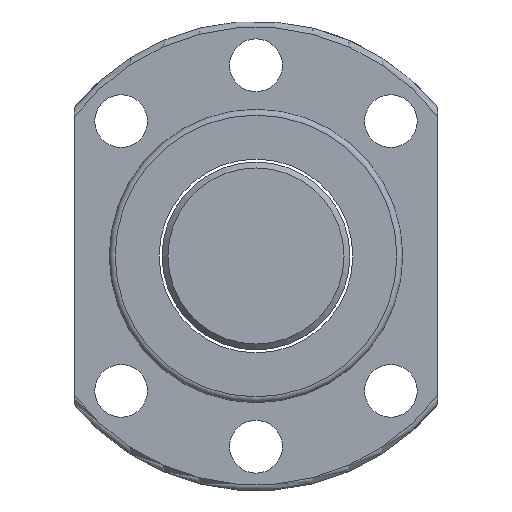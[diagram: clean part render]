
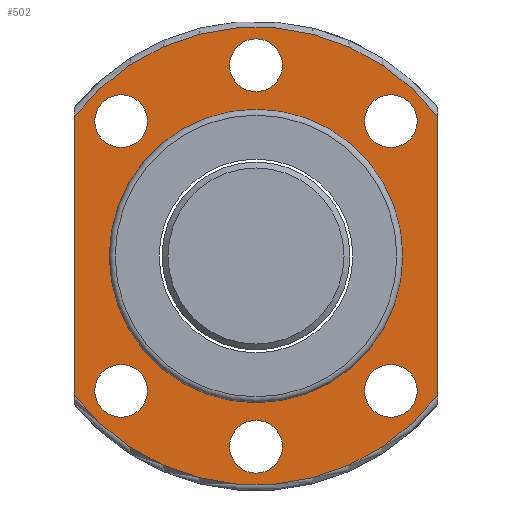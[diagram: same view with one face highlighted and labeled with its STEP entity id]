
A CAD part, left-side view. The second image highlights one B-rep face of the part: STEP entity #502.
In plain terms, the highlighted planar face has unit normal (-1, 0, 0).
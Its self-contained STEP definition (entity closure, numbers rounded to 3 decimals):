
#61=LINE('',#830,#69);
#62=LINE('',#835,#70);
#69=VECTOR('',#670,1000.);
#70=VECTOR('',#673,1000.);
#107=PLANE('',#575);
#140=ORIENTED_EDGE('',*,*,#254,.F.);
#141=ORIENTED_EDGE('',*,*,#255,.T.);
#142=ORIENTED_EDGE('',*,*,#256,.T.);
#143=ORIENTED_EDGE('',*,*,#257,.T.);
#144=ORIENTED_EDGE('',*,*,#258,.T.);
#145=ORIENTED_EDGE('',*,*,#259,.F.);
#146=ORIENTED_EDGE('',*,*,#260,.F.);
#147=ORIENTED_EDGE('',*,*,#261,.F.);
#148=ORIENTED_EDGE('',*,*,#262,.F.);
#149=ORIENTED_EDGE('',*,*,#263,.F.);
#150=ORIENTED_EDGE('',*,*,#264,.F.);
#254=EDGE_CURVE('',#313,#314,#61,.T.);
#255=EDGE_CURVE('',#313,#315,#352,.T.);
#256=EDGE_CURVE('',#315,#316,#62,.T.);
#257=EDGE_CURVE('',#316,#314,#353,.T.);
#258=EDGE_CURVE('',#317,#317,#354,.T.);
#259=EDGE_CURVE('',#318,#318,#355,.T.);
#260=EDGE_CURVE('',#319,#319,#356,.T.);
#261=EDGE_CURVE('',#320,#320,#357,.T.);
#262=EDGE_CURVE('',#321,#321,#358,.T.);
#263=EDGE_CURVE('',#322,#322,#359,.T.);
#264=EDGE_CURVE('',#323,#323,#360,.T.);
#313=VERTEX_POINT('',#831);
#314=VERTEX_POINT('',#832);
#315=VERTEX_POINT('',#834);
#316=VERTEX_POINT('',#836);
#317=VERTEX_POINT('',#839);
#318=VERTEX_POINT('',#841);
#319=VERTEX_POINT('',#843);
#320=VERTEX_POINT('',#845);
#321=VERTEX_POINT('',#847);
#322=VERTEX_POINT('',#849);
#323=VERTEX_POINT('',#851);
#352=CIRCLE('',#576,39.);
#353=CIRCLE('',#577,39.);
#354=CIRCLE('',#578,25.);
#355=CIRCLE('',#579,4.5);
#356=CIRCLE('',#580,4.5);
#357=CIRCLE('',#581,4.5);
#358=CIRCLE('',#582,4.5);
#359=CIRCLE('',#583,4.5);
#360=CIRCLE('',#584,4.5);
#387=EDGE_LOOP('',(#140,#141,#142,#143));
#388=EDGE_LOOP('',(#144));
#389=EDGE_LOOP('',(#145));
#390=EDGE_LOOP('',(#146));
#391=EDGE_LOOP('',(#147));
#392=EDGE_LOOP('',(#148));
#393=EDGE_LOOP('',(#149));
#394=EDGE_LOOP('',(#150));
#449=FACE_BOUND('',#387,.T.);
#450=FACE_BOUND('',#388,.T.);
#451=FACE_BOUND('',#389,.T.);
#452=FACE_BOUND('',#390,.T.);
#453=FACE_BOUND('',#391,.T.);
#454=FACE_BOUND('',#392,.T.);
#455=FACE_BOUND('',#393,.T.);
#456=FACE_BOUND('',#394,.T.);
#502=ADVANCED_FACE('',(#449,#450,#451,#452,#453,#454,#455,#456),#107,.T.);
#575=AXIS2_PLACEMENT_3D('',#829,#668,#669);
#576=AXIS2_PLACEMENT_3D('',#833,#671,#672);
#577=AXIS2_PLACEMENT_3D('',#837,#674,#675);
#578=AXIS2_PLACEMENT_3D('',#838,#676,#677);
#579=AXIS2_PLACEMENT_3D('',#840,#678,#679);
#580=AXIS2_PLACEMENT_3D('',#842,#680,#681);
#581=AXIS2_PLACEMENT_3D('',#844,#682,#683);
#582=AXIS2_PLACEMENT_3D('',#846,#684,#685);
#583=AXIS2_PLACEMENT_3D('',#848,#686,#687);
#584=AXIS2_PLACEMENT_3D('',#850,#688,#689);
#668=DIRECTION('',(-1.,0.,0.));
#669=DIRECTION('',(0.,0.,1.));
#670=DIRECTION('',(0.,0.,-1.));
#671=DIRECTION('',(-1.,0.,0.));
#672=DIRECTION('',(0.,0.,1.));
#673=DIRECTION('',(0.,0.,-1.));
#674=DIRECTION('',(-1.,0.,0.));
#675=DIRECTION('',(0.,0.,1.));
#676=DIRECTION('',(1.,0.,0.));
#677=DIRECTION('',(0.,0.,-1.));
#678=DIRECTION('',(-1.,0.,0.));
#679=DIRECTION('',(0.,0.,1.));
#680=DIRECTION('',(-1.,0.,0.));
#681=DIRECTION('',(0.,0.,1.));
#682=DIRECTION('',(-1.,0.,0.));
#683=DIRECTION('',(0.,0.,1.));
#684=DIRECTION('',(-1.,0.,0.));
#685=DIRECTION('',(0.,0.,1.));
#686=DIRECTION('',(-1.,0.,0.));
#687=DIRECTION('',(0.,0.,1.));
#688=DIRECTION('',(-1.,0.,0.));
#689=DIRECTION('',(0.,0.,1.));
#829=CARTESIAN_POINT('',(-27.,32.,0.));
#830=CARTESIAN_POINT('',(-27.,-31.,25.278));
#831=CARTESIAN_POINT('',(-27.,-31.,23.664));
#832=CARTESIAN_POINT('',(-27.,-31.,-23.664));
#833=CARTESIAN_POINT('',(-27.,0.,0.));
#834=CARTESIAN_POINT('',(-27.,31.,23.664));
#835=CARTESIAN_POINT('',(-27.,31.,25.278));
#836=CARTESIAN_POINT('',(-27.,31.,-23.664));
#837=CARTESIAN_POINT('',(-27.,0.,0.));
#838=CARTESIAN_POINT('',(-27.,0.,0.));
#839=CARTESIAN_POINT('',(-27.,0.,-25.));
#840=CARTESIAN_POINT('',(-27.,22.981,22.981));
#841=CARTESIAN_POINT('',(-27.,22.981,27.481));
#842=CARTESIAN_POINT('',(-27.,-22.981,22.981));
#843=CARTESIAN_POINT('',(-27.,-22.981,27.481));
#844=CARTESIAN_POINT('',(-27.,-22.981,-22.981));
#845=CARTESIAN_POINT('',(-27.,-22.981,-18.481));
#846=CARTESIAN_POINT('',(-27.,22.981,-22.981));
#847=CARTESIAN_POINT('',(-27.,22.981,-18.481));
#848=CARTESIAN_POINT('',(-27.,0.,32.5));
#849=CARTESIAN_POINT('',(-27.,0.,37.));
#850=CARTESIAN_POINT('',(-27.,0.,-32.5));
#851=CARTESIAN_POINT('',(-27.,0.,-28.));
